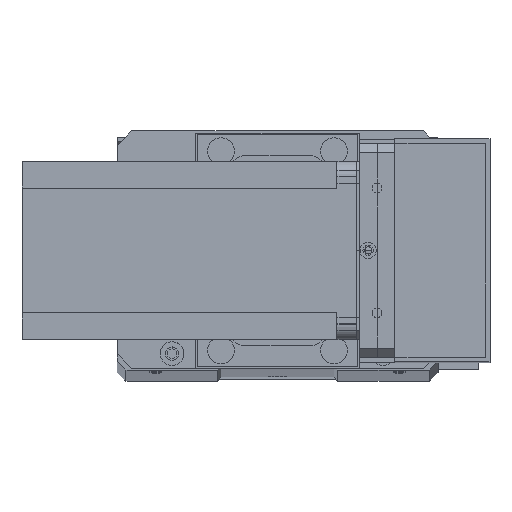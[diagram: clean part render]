
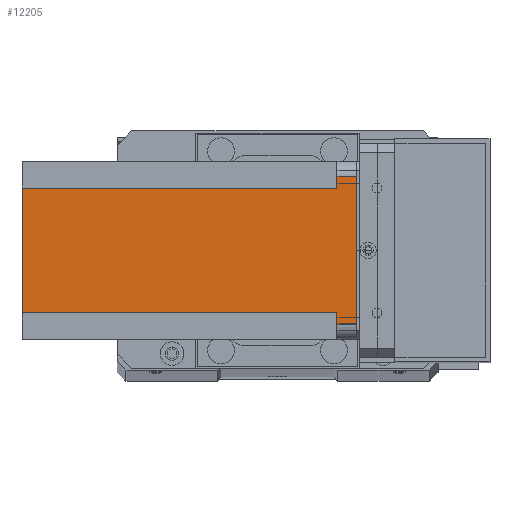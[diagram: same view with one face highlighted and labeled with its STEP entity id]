
A CAD part, top view. The second image highlights one B-rep face of the part: STEP entity #12205.
In plain terms, the highlighted planar face has unit normal (0, 0, 1) as drawn and (1, 0, 0) by its records, which use the part's own axes.
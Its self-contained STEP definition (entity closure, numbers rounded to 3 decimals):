
#141 = VERTEX_POINT ( 'NONE', #18962 ) ;
#404 = CARTESIAN_POINT ( 'NONE',  ( 60., 0., -112.5 ) ) ;
#561 = EDGE_CURVE ( 'NONE', #1395, #24026, #2650, .T. ) ;
#695 = EDGE_CURVE ( 'NONE', #141, #26941, #13019, .T. ) ;
#1015 = VERTEX_POINT ( 'NONE', #31931 ) ;
#1395 = VERTEX_POINT ( 'NONE', #8550 ) ;
#1986 = ORIENTED_EDGE ( 'NONE', *, *, #5456, .F. ) ;
#2003 = EDGE_CURVE ( 'NONE', #141, #1015, #16900, .T. ) ;
#2547 = LINE ( 'NONE', #3008, #22053 ) ;
#2650 = LINE ( 'NONE', #19213, #22159 ) ;
#2760 = EDGE_CURVE ( 'NONE', #26941, #24026, #27599, .T. ) ;
#2910 = ORIENTED_EDGE ( 'NONE', *, *, #30532, .F. ) ;
#3008 = CARTESIAN_POINT ( 'NONE',  ( 60., 55., -112.5 ) ) ;
#3327 = ORIENTED_EDGE ( 'NONE', *, *, #23531, .F. ) ;
#3967 = DIRECTION ( 'NONE',  ( 1., 0., 0. ) ) ;
#4285 = ORIENTED_EDGE ( 'NONE', *, *, #561, .T. ) ;
#5456 = EDGE_CURVE ( 'NONE', #25221, #1015, #12135, .T. ) ;
#5628 = FACE_OUTER_BOUND ( 'NONE', #24263, .T. ) ;
#6620 = CARTESIAN_POINT ( 'NONE',  ( 60., 55., -6.5 ) ) ;
#6928 = DIRECTION ( 'NONE',  ( 0., 0., 1. ) ) ;
#7025 = VECTOR ( 'NONE', #6928, 1000. ) ;
#7674 = LINE ( 'NONE', #22931, #21224 ) ;
#8404 = CARTESIAN_POINT ( 'NONE',  ( 60., 51., -6.5 ) ) ;
#8550 = CARTESIAN_POINT ( 'NONE',  ( 60., 5., 0. ) ) ;
#8607 = VERTEX_POINT ( 'NONE', #6620 ) ;
#9469 = CARTESIAN_POINT ( 'NONE',  ( 60., 5., -6.5 ) ) ;
#9514 = CARTESIAN_POINT ( 'NONE',  ( 60., 9., -112.5 ) ) ;
#10063 = DIRECTION ( 'NONE',  ( 0., -1., 0. ) ) ;
#10310 = CARTESIAN_POINT ( 'NONE',  ( 60., 9., -6.5 ) ) ;
#10564 = ORIENTED_EDGE ( 'NONE', *, *, #2003, .T. ) ;
#10747 = CARTESIAN_POINT ( 'NONE',  ( 60., 51., -112.5 ) ) ;
#10841 = AXIS2_PLACEMENT_3D ( 'NONE', #24218, #3967, #21762 ) ;
#12135 = LINE ( 'NONE', #10747, #24858 ) ;
#12205 = ADVANCED_FACE ( 'NONE', ( #5628 ), #31799, .T. ) ;
#12717 = DIRECTION ( 'NONE',  ( 0., 1., 0. ) ) ;
#13019 = LINE ( 'NONE', #9514, #7025 ) ;
#13198 = DIRECTION ( 'NONE',  ( 0., 1., 0. ) ) ;
#14073 = VECTOR ( 'NONE', #21935, 1000. ) ;
#15733 = ORIENTED_EDGE ( 'NONE', *, *, #2760, .F. ) ;
#16900 = LINE ( 'NONE', #404, #29664 ) ;
#18962 = CARTESIAN_POINT ( 'NONE',  ( 60., 9., -112.5 ) ) ;
#19213 = CARTESIAN_POINT ( 'NONE',  ( 60., 5., -112.5 ) ) ;
#19323 = VERTEX_POINT ( 'NONE', #26380 ) ;
#19766 = ORIENTED_EDGE ( 'NONE', *, *, #31206, .T. ) ;
#21224 = VECTOR ( 'NONE', #12717, 1000. ) ;
#21619 = DIRECTION ( 'NONE',  ( 0., 0., -1. ) ) ;
#21762 = DIRECTION ( 'NONE',  ( 0., 1., 0. ) ) ;
#21825 = CARTESIAN_POINT ( 'NONE',  ( 60., 0., -6.5 ) ) ;
#21935 = DIRECTION ( 'NONE',  ( 0., -1., 0. ) ) ;
#22053 = VECTOR ( 'NONE', #25818, 1000. ) ;
#22159 = VECTOR ( 'NONE', #21619, 1000. ) ;
#22931 = CARTESIAN_POINT ( 'NONE',  ( 60., 0., 0. ) ) ;
#23531 = EDGE_CURVE ( 'NONE', #1395, #19323, #7674, .T. ) ;
#23641 = VECTOR ( 'NONE', #10063, 1000. ) ;
#24026 = VERTEX_POINT ( 'NONE', #9469 ) ;
#24218 = CARTESIAN_POINT ( 'NONE',  ( 60., 0., -112.5 ) ) ;
#24263 = EDGE_LOOP ( 'NONE', ( #2910, #19766, #3327, #4285, #15733, #30998, #10564, #1986 ) ) ;
#24858 = VECTOR ( 'NONE', #31090, 1000. ) ;
#25221 = VERTEX_POINT ( 'NONE', #8404 ) ;
#25818 = DIRECTION ( 'NONE',  ( 0., 0., 1. ) ) ;
#26380 = CARTESIAN_POINT ( 'NONE',  ( 60., 55., 0. ) ) ;
#26941 = VERTEX_POINT ( 'NONE', #10310 ) ;
#27599 = LINE ( 'NONE', #21825, #14073 ) ;
#27854 = CARTESIAN_POINT ( 'NONE',  ( 60., 60., -6.5 ) ) ;
#29646 = LINE ( 'NONE', #27854, #23641 ) ;
#29664 = VECTOR ( 'NONE', #13198, 1000. ) ;
#30532 = EDGE_CURVE ( 'NONE', #8607, #25221, #29646, .T. ) ;
#30998 = ORIENTED_EDGE ( 'NONE', *, *, #695, .F. ) ;
#31090 = DIRECTION ( 'NONE',  ( 0., 0., -1. ) ) ;
#31206 = EDGE_CURVE ( 'NONE', #8607, #19323, #2547, .T. ) ;
#31799 = PLANE ( 'NONE',  #10841 ) ;
#31931 = CARTESIAN_POINT ( 'NONE',  ( 60., 51., -112.5 ) ) ;
